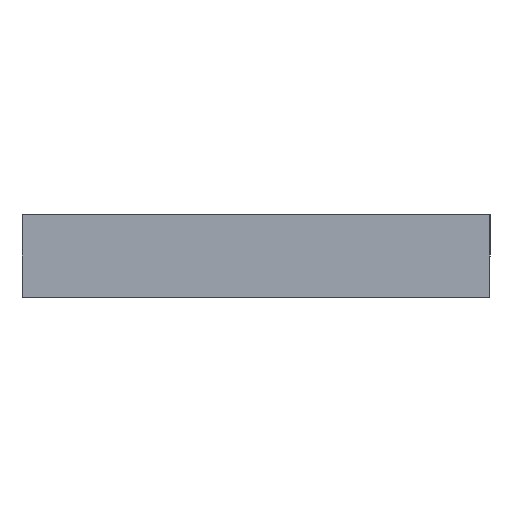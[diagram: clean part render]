
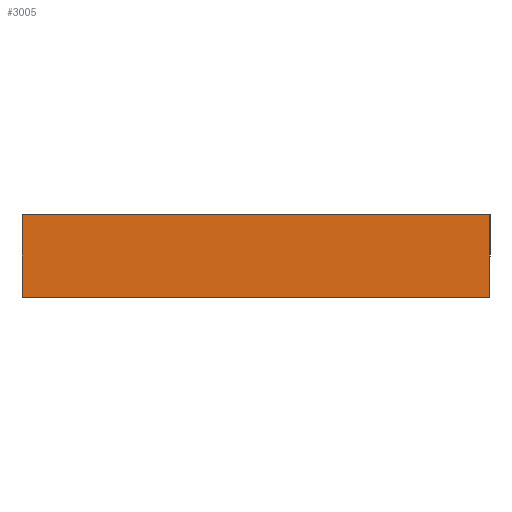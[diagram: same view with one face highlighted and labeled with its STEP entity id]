
A CAD part, left-side view. The second image highlights one B-rep face of the part: STEP entity #3005.
In plain terms, the highlighted planar face has unit normal (-1, 0, 0).
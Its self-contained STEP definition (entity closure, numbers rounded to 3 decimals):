
#35 = CARTESIAN_POINT ( 'NONE',  ( 43.264, 56.471, 16. ) ) ;
#57 = DIRECTION ( 'NONE',  ( 0., 1., 0. ) ) ;
#62 = CARTESIAN_POINT ( 'NONE',  ( 43.264, 158.775, 16. ) ) ;
#85 = VERTEX_POINT ( 'NONE', #62 ) ;
#145 = ORIENTED_EDGE ( 'NONE', *, *, #2670, .F. ) ;
#523 = VECTOR ( 'NONE', #1326, 1000. ) ;
#527 = CARTESIAN_POINT ( 'NONE',  ( 43.264, 158.775, -2. ) ) ;
#633 = VECTOR ( 'NONE', #954, 1000. ) ;
#751 = ORIENTED_EDGE ( 'NONE', *, *, #2953, .T. ) ;
#925 = CARTESIAN_POINT ( 'NONE',  ( 43.264, 56.471, -2. ) ) ;
#954 = DIRECTION ( 'NONE',  ( 0., 0., 1. ) ) ;
#1000 = PLANE ( 'NONE',  #1643 ) ;
#1042 = CARTESIAN_POINT ( 'NONE',  ( 43.264, 56.471, -2. ) ) ;
#1051 = LINE ( 'NONE', #2033, #2703 ) ;
#1189 = ORIENTED_EDGE ( 'NONE', *, *, #1799, .T. ) ;
#1290 = CARTESIAN_POINT ( 'NONE',  ( 43.264, 158.775, -2. ) ) ;
#1326 = DIRECTION ( 'NONE',  ( 0., 0., 1. ) ) ;
#1505 = DIRECTION ( 'NONE',  ( 0., 1., 0. ) ) ;
#1643 = AXIS2_PLACEMENT_3D ( 'NONE', #1290, #2233, #2742 ) ;
#1665 = EDGE_CURVE ( 'NONE', #2444, #85, #2561, .T. ) ;
#1799 = EDGE_CURVE ( 'NONE', #1958, #2418, #2146, .T. ) ;
#1958 = VERTEX_POINT ( 'NONE', #1042 ) ;
#2033 = CARTESIAN_POINT ( 'NONE',  ( 43.264, 158.775, -2. ) ) ;
#2049 = CARTESIAN_POINT ( 'NONE',  ( 43.264, 158.775, 16. ) ) ;
#2146 = LINE ( 'NONE', #925, #633 ) ;
#2201 = VECTOR ( 'NONE', #57, 1000. ) ;
#2233 = DIRECTION ( 'NONE',  ( 1., 0., 0. ) ) ;
#2281 = CARTESIAN_POINT ( 'NONE',  ( 43.264, 158.775, -2. ) ) ;
#2282 = LINE ( 'NONE', #2049, #2201 ) ;
#2418 = VERTEX_POINT ( 'NONE', #35 ) ;
#2444 = VERTEX_POINT ( 'NONE', #527 ) ;
#2493 = FACE_OUTER_BOUND ( 'NONE', #2638, .T. ) ;
#2561 = LINE ( 'NONE', #2281, #523 ) ;
#2638 = EDGE_LOOP ( 'NONE', ( #1189, #751, #2651, #145 ) ) ;
#2651 = ORIENTED_EDGE ( 'NONE', *, *, #1665, .F. ) ;
#2670 = EDGE_CURVE ( 'NONE', #1958, #2444, #1051, .T. ) ;
#2703 = VECTOR ( 'NONE', #1505, 1000. ) ;
#2742 = DIRECTION ( 'NONE',  ( 0., 0., -1. ) ) ;
#2953 = EDGE_CURVE ( 'NONE', #2418, #85, #2282, .T. ) ;
#3005 = ADVANCED_FACE ( 'NONE', ( #2493 ), #1000, .F. ) ;
